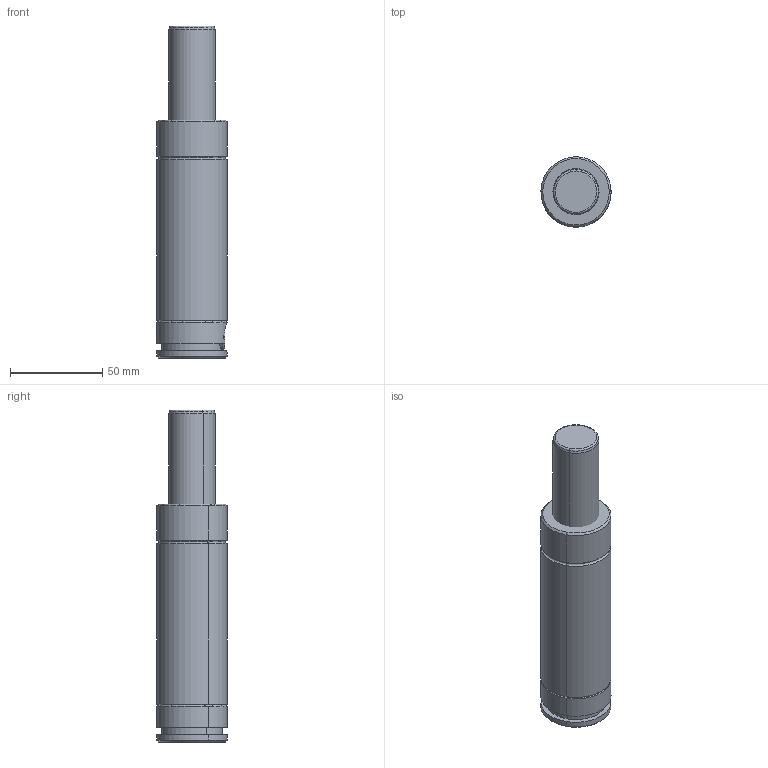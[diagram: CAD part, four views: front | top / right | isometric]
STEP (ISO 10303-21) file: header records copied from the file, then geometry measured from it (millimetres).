
FILE_DESCRIPTION(('CATIA V5 STEP Exchange'),'2;1');
FILE_NAME('W:\CATALOGO GENERAL 2018\FICHEROS CAD\003-TPH\TPH 1000C\TPH1000x50C.stp','2017-10-30T11:19:00+00:00',('none'),('none'),'CATIA Version 5 Release 17 (IN-10)','CATIA V5 STEP AP203','none');
FILE_SCHEMA(('CONFIG_CONTROL_DESIGN'));
Length unit declared in the file: millimetre
Products named in the file (1): TPH 1000x50C
Assembly tree (4 placements, depth 2):
  TPH 1000x50C
    #56
    #631
    #1424
    #2337
Bounding box: 37.99 x 37.99 x 180 mm (x, y, z)
Volume: 178626.5 mm3; surface area: 29468.2 mm2
Topology: 4 solids, 4 shells, 155 faces, 318 edges, 184 vertices
Faces by surface type: cone 44, cylinder 41, torus 40, plane 30
Entity records: 4076 total; most frequent: CARTESIAN_POINT 942, ORIENTED_EDGE 636, DIRECTION 540, EDGE_CURVE 318, AXIS2_PLACEMENT_3D 316, CIRCLE 192, VERTEX_POINT 184, EDGE_LOOP 168
